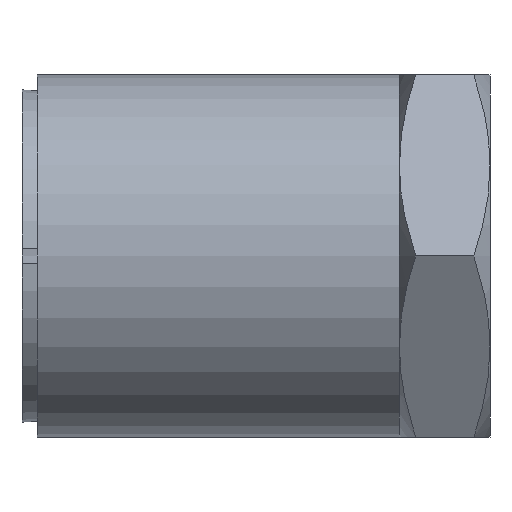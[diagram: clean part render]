
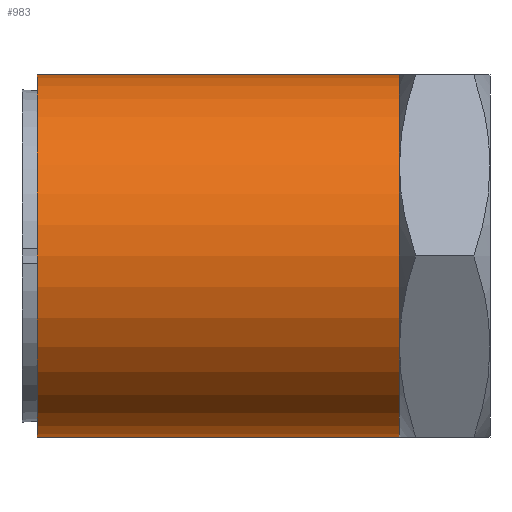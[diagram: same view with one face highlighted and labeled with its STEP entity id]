
A CAD part, front view. The second image highlights one B-rep face of the part: STEP entity #983.
In plain terms, the highlighted cylindrical face has radius 6 mm (diameter 12 mm), a partial arc.
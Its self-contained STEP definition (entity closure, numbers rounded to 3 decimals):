
#7 = EDGE_CURVE ( 'NONE', #549, #571, #1241, .T. ) ;
#40 = EDGE_CURVE ( 'NONE', #549, #545, #1167, .T. ) ;
#41 = EDGE_CURVE ( 'NONE', #545, #548, #1165, .T. ) ;
#42 = EDGE_CURVE ( 'NONE', #548, #530, #1163, .T. ) ;
#43 = EDGE_CURVE ( 'NONE', #571, #567, #1161, .T. ) ;
#63 = AXIS2_PLACEMENT_3D ( 'NONE', #907, #914, #942 ) ;
#107 = AXIS2_PLACEMENT_3D ( 'NONE', #253, #204, #203 ) ;
#108 = AXIS2_PLACEMENT_3D ( 'NONE', #278, #224, #215 ) ;
#110 = AXIS2_PLACEMENT_3D ( 'NONE', #256, #244, #239 ) ;
#112 = AXIS2_PLACEMENT_3D ( 'NONE', #359, #272, #263 ) ;
#184 = EDGE_CURVE ( 'NONE', #530, #567, #1116, .T. ) ;
#203 = DIRECTION ( 'NONE',  ( 0., 0., 1. ) ) ;
#204 = DIRECTION ( 'NONE',  ( -1., 0., 0. ) ) ;
#215 = DIRECTION ( 'NONE',  ( 0., 0., 1. ) ) ;
#224 = DIRECTION ( 'NONE',  ( -1., 0., 0. ) ) ;
#239 = DIRECTION ( 'NONE',  ( 0., 0., 1. ) ) ;
#240 = DIRECTION ( 'NONE',  ( -1., 0., 0. ) ) ;
#241 = CARTESIAN_POINT ( 'NONE',  ( 0., 0., 6. ) ) ;
#244 = DIRECTION ( 'NONE',  ( -1., 0., 0. ) ) ;
#253 = CARTESIAN_POINT ( 'NONE',  ( 0., 0., 0. ) ) ;
#256 = CARTESIAN_POINT ( 'NONE',  ( 12., 0., 0. ) ) ;
#263 = DIRECTION ( 'NONE',  ( 0., 0., 1. ) ) ;
#272 = DIRECTION ( 'NONE',  ( -1., 0., 0. ) ) ;
#278 = CARTESIAN_POINT ( 'NONE',  ( 12., 0., 0. ) ) ;
#359 = CARTESIAN_POINT ( 'NONE',  ( 12., 0., 0. ) ) ;
#500 = DIRECTION ( 'NONE',  ( -1., 0., 0. ) ) ;
#505 = CARTESIAN_POINT ( 'NONE',  ( 0., 0., -6. ) ) ;
#530 = VERTEX_POINT ( 'NONE', #641 ) ;
#545 = VERTEX_POINT ( 'NONE', #587 ) ;
#548 = VERTEX_POINT ( 'NONE', #581 ) ;
#549 = VERTEX_POINT ( 'NONE', #579 ) ;
#567 = VERTEX_POINT ( 'NONE', #647 ) ;
#571 = VERTEX_POINT ( 'NONE', #640 ) ;
#579 = CARTESIAN_POINT ( 'NONE',  ( 12., 0., -6. ) ) ;
#581 = CARTESIAN_POINT ( 'NONE',  ( 12., -5.196, 3. ) ) ;
#587 = CARTESIAN_POINT ( 'NONE',  ( 12., -5.196, -3. ) ) ;
#640 = CARTESIAN_POINT ( 'NONE',  ( 0., 0., -6. ) ) ;
#641 = CARTESIAN_POINT ( 'NONE',  ( 12., 0., 6. ) ) ;
#647 = CARTESIAN_POINT ( 'NONE',  ( 0., 0., 6. ) ) ;
#769 = ORIENTED_EDGE ( 'NONE', *, *, #43, .F. ) ;
#780 = ORIENTED_EDGE ( 'NONE', *, *, #41, .T. ) ;
#781 = ORIENTED_EDGE ( 'NONE', *, *, #42, .T. ) ;
#782 = ORIENTED_EDGE ( 'NONE', *, *, #184, .T. ) ;
#784 = ORIENTED_EDGE ( 'NONE', *, *, #7, .F. ) ;
#785 = ORIENTED_EDGE ( 'NONE', *, *, #40, .T. ) ;
#799 = EDGE_LOOP ( 'NONE', ( #784, #785, #780, #781, #782, #769 ) ) ;
#907 = CARTESIAN_POINT ( 'NONE',  ( 0., 0., 0. ) ) ;
#914 = DIRECTION ( 'NONE',  ( -1., 0., 0. ) ) ;
#942 = DIRECTION ( 'NONE',  ( 0., 0., 1. ) ) ;
#983 = ADVANCED_FACE ( 'NONE', ( #1095 ), #1086, .T. ) ;
#1086 = CYLINDRICAL_SURFACE ( 'NONE', #63, 6. ) ;
#1095 = FACE_OUTER_BOUND ( 'NONE', #799, .T. ) ;
#1115 = VECTOR ( 'NONE', #240, 1000. ) ;
#1116 = LINE ( 'NONE', #241, #1115 ) ;
#1161 = CIRCLE ( 'NONE', #107, 6. ) ;
#1163 = CIRCLE ( 'NONE', #108, 6. ) ;
#1165 = CIRCLE ( 'NONE', #110, 6. ) ;
#1167 = CIRCLE ( 'NONE', #112, 6. ) ;
#1227 = VECTOR ( 'NONE', #500, 1000. ) ;
#1241 = LINE ( 'NONE', #505, #1227 ) ;
